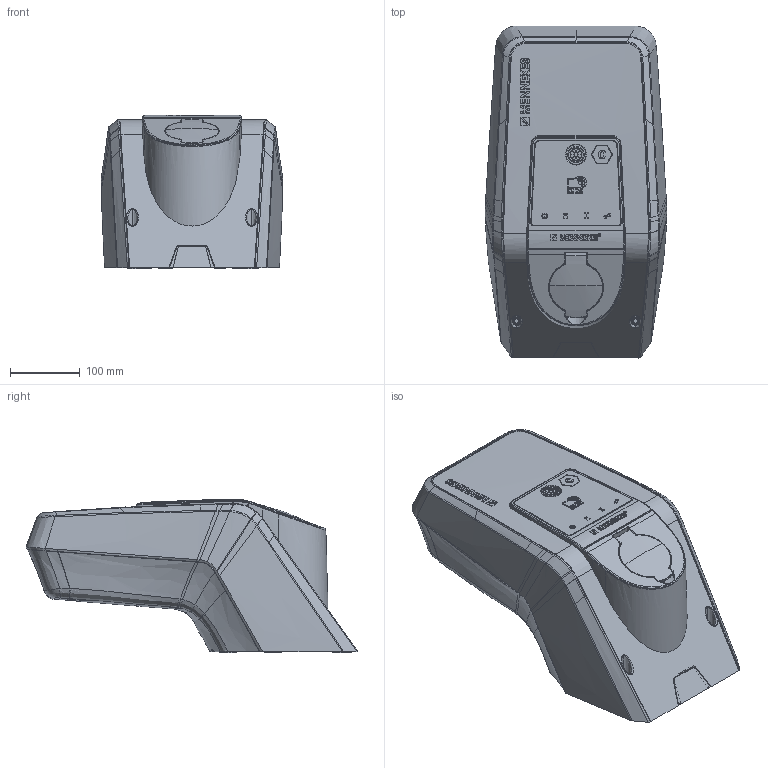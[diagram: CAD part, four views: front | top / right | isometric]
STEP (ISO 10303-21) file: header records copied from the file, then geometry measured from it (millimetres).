
FILE_DESCRIPTION((''),'2;1');
FILE_NAME('1331302405_SW0001','2023-07-14T11:06:08',('hoffmannf'),('MENNEKES'),'CREO PARAMETRIC BY PTC INC, 2019080','CREO PARAMETRIC BY PTC INC, 2019080','');
FILE_SCHEMA(('AUTOMOTIVE_DESIGN { 1 0 10303 214 1 1 1 1 }'));
Products named in the file (1): 1331302405_SW0001
Bounding box: 259.27 x 474.8 x 220.35 mm (x, y, z)
Volume: 15141080.5 mm3; surface area: 440052.8 mm2
Topology: 1 solids, 1 shells, 2088 faces, 5100 edges, 3132 vertices
Faces by surface type: bspline 735, plane 654, cylinder 320, extrusion 139, torus 135, cone 86, sphere 19
Entity records: 114265 total; most frequent: CARTESIAN_POINT 55334, ORIENTED_EDGE 10196, DIRECTION 6975, EDGE_CURVE 5098, VERTEX_POINT 3132, AXIS2_PLACEMENT_3D 2474, PRESENTATION_STYLE_ASSIGNMENT 2226, STYLED_ITEM 2226
